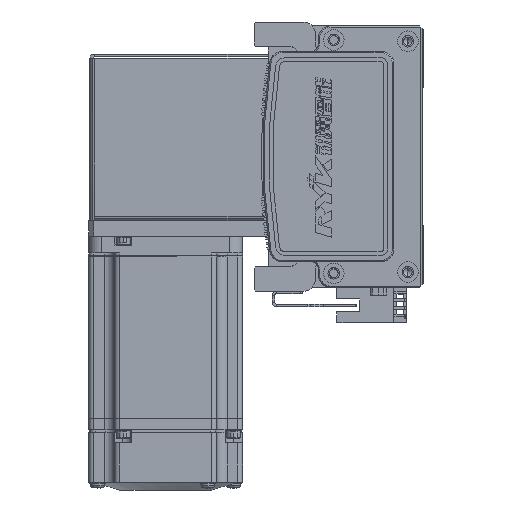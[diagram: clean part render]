
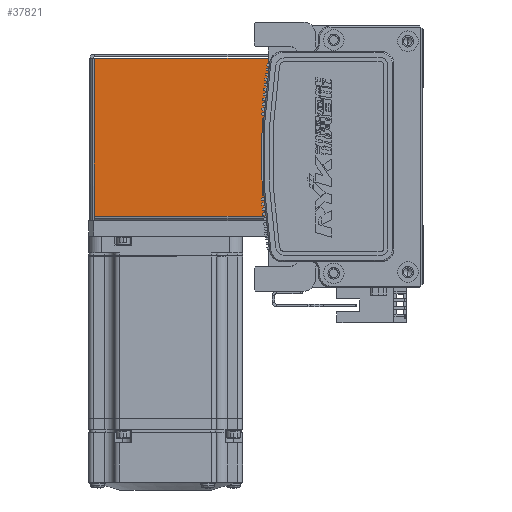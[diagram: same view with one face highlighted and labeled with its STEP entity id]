
A CAD part, left-side view. The second image highlights one B-rep face of the part: STEP entity #37821.
In plain terms, the highlighted planar face has unit normal (-1, 0, 0) as drawn and (0, 0, 1) by its records, which use the part's own axes.
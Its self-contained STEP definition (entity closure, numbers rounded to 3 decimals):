
#101 = EDGE_CURVE ( 'NONE', #54216, #28715, #8863, .T. ) ;
#8863 = LINE ( 'NONE', #16163, #13923 ) ;
#9943 = VERTEX_POINT ( 'NONE', #58957 ) ;
#10548 = AXIS2_PLACEMENT_3D ( 'NONE', #34927, #13491, #13738 ) ;
#11048 = EDGE_LOOP ( 'NONE', ( #20924, #31300, #13657, #27051 ) ) ;
#13491 = DIRECTION ( 'NONE',  ( 0., 0., -1. ) ) ;
#13657 = ORIENTED_EDGE ( 'NONE', *, *, #54238, .F. ) ;
#13738 = DIRECTION ( 'NONE',  ( -1., 0., 0. ) ) ;
#13923 = VECTOR ( 'NONE', #58619, 1000. ) ;
#16163 = CARTESIAN_POINT ( 'NONE',  ( 0., 68.5, 35. ) ) ;
#16986 = DIRECTION ( 'NONE',  ( -1., 0., 0. ) ) ;
#19389 = DIRECTION ( 'NONE',  ( 0., 1., 0. ) ) ;
#20254 = LINE ( 'NONE', #60587, #21048 ) ;
#20924 = ORIENTED_EDGE ( 'NONE', *, *, #64043, .T. ) ;
#21048 = VECTOR ( 'NONE', #16986, 1000. ) ;
#25182 = CARTESIAN_POINT ( 'NONE',  ( 30.763, 0.737, 35. ) ) ;
#27051 = ORIENTED_EDGE ( 'NONE', *, *, #58824, .F. ) ;
#28452 = CARTESIAN_POINT ( 'NONE',  ( -30.793, 68.5, 35. ) ) ;
#28715 = VERTEX_POINT ( 'NONE', #28452 ) ;
#29311 = PLANE ( 'NONE',  #10548 ) ;
#30543 = VECTOR ( 'NONE', #59889, 1000. ) ;
#31296 = VERTEX_POINT ( 'NONE', #56146 ) ;
#31300 = ORIENTED_EDGE ( 'NONE', *, *, #101, .T. ) ;
#33745 = CARTESIAN_POINT ( 'NONE',  ( 30.763, 68.5, 35. ) ) ;
#34927 = CARTESIAN_POINT ( 'NONE',  ( 0., 0., 35. ) ) ;
#37821 = ADVANCED_FACE ( 'NONE', ( #56250 ), #29311, .F. ) ;
#45504 = LINE ( 'NONE', #25182, #63912 ) ;
#49386 = CARTESIAN_POINT ( 'NONE',  ( -30.793, 0., 35. ) ) ;
#54216 = VERTEX_POINT ( 'NONE', #33745 ) ;
#54238 = EDGE_CURVE ( 'NONE', #9943, #28715, #66430, .T. ) ;
#56146 = CARTESIAN_POINT ( 'NONE',  ( 30.763, 0.737, 35. ) ) ;
#56250 = FACE_OUTER_BOUND ( 'NONE', #11048, .T. ) ;
#58619 = DIRECTION ( 'NONE',  ( -1., 0., 0. ) ) ;
#58824 = EDGE_CURVE ( 'NONE', #31296, #9943, #20254, .T. ) ;
#58957 = CARTESIAN_POINT ( 'NONE',  ( -30.793, 0.737, 35. ) ) ;
#59889 = DIRECTION ( 'NONE',  ( 0., 1., 0. ) ) ;
#60587 = CARTESIAN_POINT ( 'NONE',  ( -32.5, 0.737, 35. ) ) ;
#63912 = VECTOR ( 'NONE', #19389, 1000. ) ;
#64043 = EDGE_CURVE ( 'NONE', #31296, #54216, #45504, .T. ) ;
#66430 = LINE ( 'NONE', #49386, #30543 ) ;
